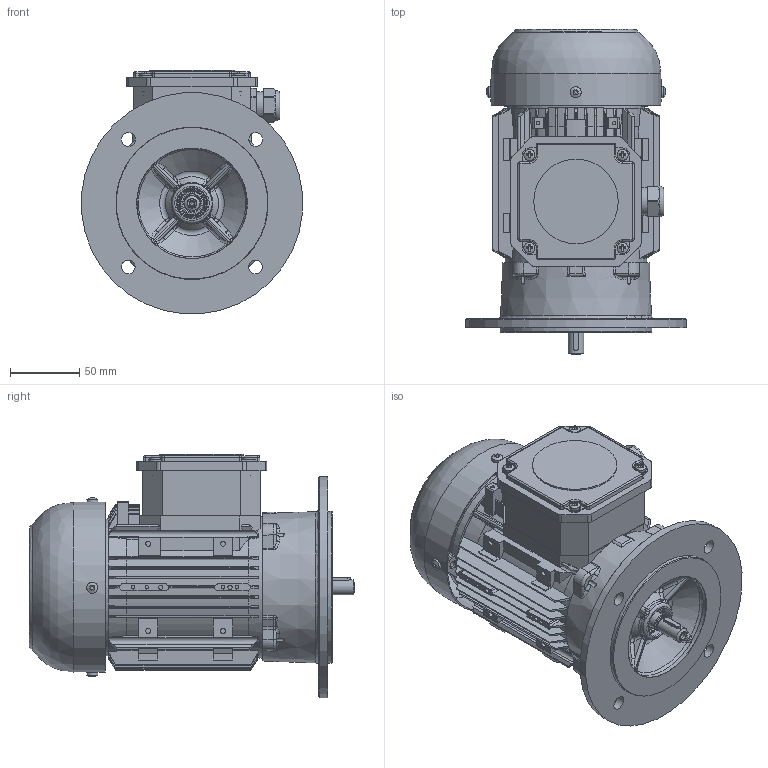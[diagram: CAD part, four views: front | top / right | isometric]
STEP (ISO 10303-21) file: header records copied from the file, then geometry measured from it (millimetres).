
FILE_DESCRIPTION(/* description */ (''),/* implementation_level */ '2;1');
FILE_NAME(/* name */ 'OUTLOOK VIEW QH63 FA B5 - BIGGER FF130 SPL.stp',/* time_stamp */ '2021-09-21T11:10:54+03:00',/* author */ (''),/* organization */ (''),/* preprocessor_version */ 'ST-DEVELOPER v16',/* originating_system */ 'SIEMENS PLM Software NX 11.0',/* authorisation */ '');
FILE_SCHEMA (('AUTOMOTIVE_DESIGN { 1 0 10303 214 3 1 1 1 }'));
Products named in the file (1): 260652D491E0rvbn
Bounding box: 159.4 x 234.84 x 175.7 mm (x, y, z)
Volume: 669429.2 mm3; surface area: 399599.6 mm2
Topology: 39 solids, 41 shells, 2761 faces, 7211 edges, 4582 vertices
Faces by surface type: plane 1136, cylinder 876, bspline 360, cone 216, torus 124, sphere 30, extrusion 19
Full cylindrical faces by diameter (mm): 1.7 x2, 2.5 x12, 3 x4, 3.15 x1, 3.3 x10, 3.65 x14, 4 x9, 4.3 x1, 4.5 x4, 4.65 x4, 4.8 x4, 5 x4, 5.1 x1, 5.5 x1, 8 x9, 10 x4, 10.4 x1, 11 x2, 11.4 x2, 11.5 x1, 12 x5, 12.2 x1, 12.5 x1, 13 x1, 14.5 x1, 15.5 x2, 18 x1, 18.45 x8, 18.5 x1, 18.9 x1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
Entity records: 96944 total; most frequent: CARTESIAN_POINT 28552, ORIENTED_EDGE 13438, DIRECTION 12550, EDGE_CURVE 6719, AXIS2_PLACEMENT_3D 4791, VERTEX_POINT 4485, EDGE_LOOP 3362, VECTOR 2968
